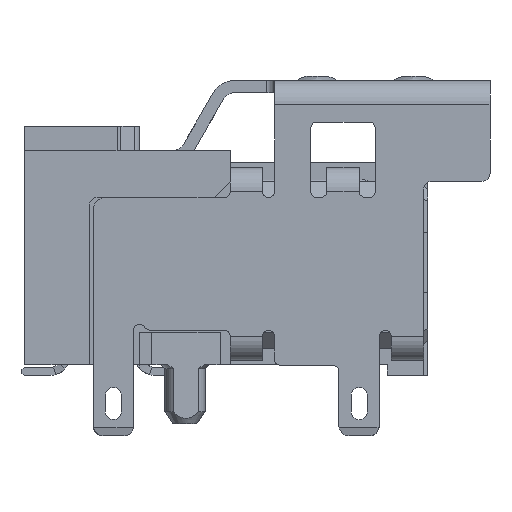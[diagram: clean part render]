
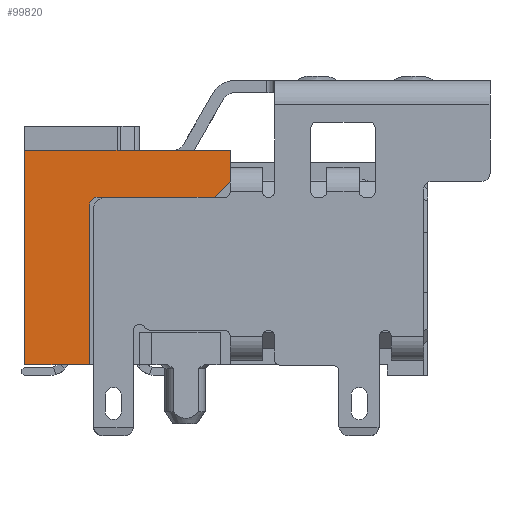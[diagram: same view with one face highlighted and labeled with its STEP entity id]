
A CAD part, left-side view. The second image highlights one B-rep face of the part: STEP entity #99820.
In plain terms, the highlighted planar face has unit normal (-1, 0, 0).
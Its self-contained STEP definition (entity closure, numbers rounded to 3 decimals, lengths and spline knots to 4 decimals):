
#52932=DIRECTION('',(0.,-1.,0.));
#52933=VECTOR('',#52932,1.6);
#52934=CARTESIAN_POINT('',(-12.85,10.,0.215));
#52935=LINE('',#52934,#52933);
#61249=DIRECTION('',(0.,0.,-1.));
#61250=VECTOR('',#61249,5.32);
#61251=CARTESIAN_POINT('',(-12.85,10.,5.535));
#61252=LINE('',#61251,#61250);
#61637=DIRECTION('',(0.,1.,0.));
#61638=VECTOR('',#61637,5.1);
#61639=CARTESIAN_POINT('',(-12.85,4.9,5.535));
#61640=LINE('',#61639,#61638);
#61847=DIRECTION('',(0.,0.,1.));
#61848=VECTOR('',#61847,0.77);
#61849=CARTESIAN_POINT('',(-12.85,4.9,4.765));
#61850=LINE('',#61849,#61848);
#61981=DIRECTION('',(0.,0.,1.));
#61982=VECTOR('',#61981,3.95);
#61983=CARTESIAN_POINT('',(-12.85,8.4,0.215));
#61984=LINE('',#61983,#61982);
#61988=CARTESIAN_POINT('',(-12.85,8.2,4.165));
#61989=DIRECTION('',(-1.,0.,0.));
#61990=DIRECTION('',(0.,0.,1.));
#61991=AXIS2_PLACEMENT_3D('',#61988,#61989,#61990);
#61996=DIRECTION('',(0.,0.707,-0.707));
#61997=VECTOR('',#61996,0.5657);
#61998=CARTESIAN_POINT('',(-12.85,4.9,4.765));
#61999=LINE('',#61998,#61997);
#62010=DIRECTION('',(0.,-1.,0.));
#62011=VECTOR('',#62010,2.9);
#62012=CARTESIAN_POINT('',(-12.85,8.2,4.365));
#62013=LINE('',#62012,#62011);
#91827=CARTESIAN_POINT('',(-12.85,4.9,5.535));
#91828=VERTEX_POINT('',#91827);
#91829=CARTESIAN_POINT('',(-12.85,10.,5.535));
#91830=VERTEX_POINT('',#91829);
#91845=CARTESIAN_POINT('',(-12.85,10.,0.215));
#91846=VERTEX_POINT('',#91845);
#91915=CARTESIAN_POINT('',(-12.85,4.9,4.765));
#91916=VERTEX_POINT('',#91915);
#92227=CARTESIAN_POINT('',(-12.85,8.4,0.215));
#92228=VERTEX_POINT('',#92227);
#93509=CARTESIAN_POINT('',(-12.85,8.4,4.165));
#93510=VERTEX_POINT('',#93509);
#93511=CARTESIAN_POINT('',(-12.85,8.2,4.365));
#93512=CARTESIAN_POINT('',(-12.85,5.3,4.365));
#93513=VERTEX_POINT('',#93511);
#93514=VERTEX_POINT('',#93512);
#99802=CARTESIAN_POINT('',(-12.85,8.2,4.315));
#99803=DIRECTION('',(-1.,0.,0.));
#99804=DIRECTION('',(0.,-1.,0.));
#99805=AXIS2_PLACEMENT_3D('',#99802,#99803,#99804);
#99806=PLANE('',#99805);
#99808=ORIENTED_EDGE('',*,*,#99807,.F.);
#99810=ORIENTED_EDGE('',*,*,#99809,.T.);
#99811=ORIENTED_EDGE('',*,*,#99795,.F.);
#99812=ORIENTED_EDGE('',*,*,#94524,.F.);
#99813=ORIENTED_EDGE('',*,*,#99059,.F.);
#99814=ORIENTED_EDGE('',*,*,#99423,.F.);
#99815=ORIENTED_EDGE('',*,*,#99693,.F.);
#99817=ORIENTED_EDGE('',*,*,#99816,.T.);
#99818=EDGE_LOOP('',(#99808,#99810,#99811,#99812,#99813,#99814,#99815,#99817));
#99819=FACE_OUTER_BOUND('',#99818,.F.);
#61992=CIRCLE('',#61991,0.2);
#94524=EDGE_CURVE('',#91846,#92228,#52935,.T.);
#99059=EDGE_CURVE('',#91830,#91846,#61252,.T.);
#99423=EDGE_CURVE('',#91828,#91830,#61640,.T.);
#99693=EDGE_CURVE('',#91916,#91828,#61850,.T.);
#99795=EDGE_CURVE('',#92228,#93510,#61984,.T.);
#99807=EDGE_CURVE('',#93513,#93514,#62013,.T.);
#99809=EDGE_CURVE('',#93513,#93510,#61992,.T.);
#99816=EDGE_CURVE('',#91916,#93514,#61999,.T.);
#99820=ADVANCED_FACE('',(#99819),#99806,.T.);
